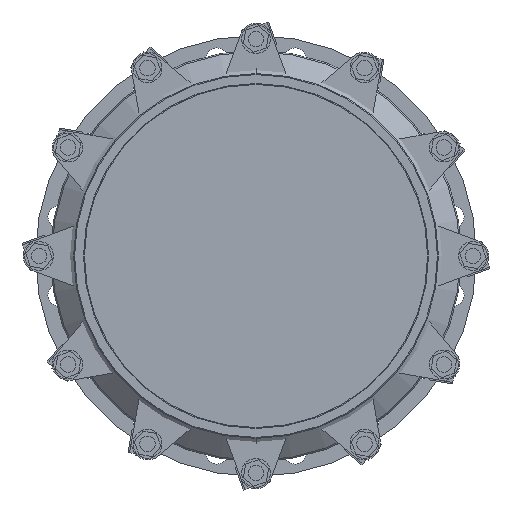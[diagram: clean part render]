
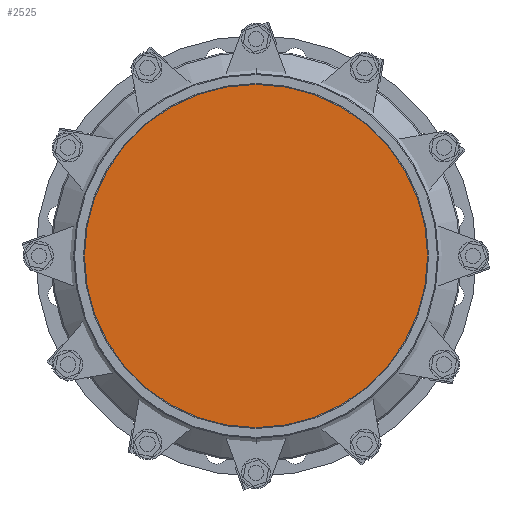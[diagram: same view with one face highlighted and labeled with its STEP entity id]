
A CAD part, left-side view. The second image highlights one B-rep face of the part: STEP entity #2525.
In plain terms, the highlighted planar face has unit normal (-1, 0, 0).
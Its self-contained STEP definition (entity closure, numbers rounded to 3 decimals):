
#2525=ADVANCED_FACE('',(#4949),#4950,.T.);
#4949=FACE_OUTER_BOUND('',#7655,.T.);
#4950=PLANE('',#7656);
#7655=EDGE_LOOP('',(#13088,#13089));
#7656=AXIS2_PLACEMENT_3D('',#13090,#13091,#13092);
#13088=ORIENTED_EDGE('',*,*,#17086,.T.);
#13089=ORIENTED_EDGE('',*,*,#17087,.T.);
#13090=CARTESIAN_POINT('',(-526.97,-310.693,326.12));
#13091=DIRECTION('',(-1.0,0.0,0.));
#13092=DIRECTION('',(0.,0.0,1.0));
#17086=EDGE_CURVE('',#20786,#20787,#20788,.T.);
#17087=EDGE_CURVE('',#20787,#20786,#20789,.T.);
#20786=VERTEX_POINT('',#25713);
#20787=VERTEX_POINT('',#25714);
#20788=CIRCLE('',#25715,232.5);
#20789=CIRCLE('',#25716,232.5);
#25713=CARTESIAN_POINT('',(-526.97,-310.693,93.62));
#25714=CARTESIAN_POINT('',(-526.97,-310.693,558.62));
#25715=AXIS2_PLACEMENT_3D('',#28667,#28668,#28669);
#25716=AXIS2_PLACEMENT_3D('',#28670,#28671,#28672);
#28667=CARTESIAN_POINT('',(-526.97,-310.693,326.12));
#28668=DIRECTION('',(-1.0,0.0,0.));
#28669=DIRECTION('',(0.,0.0,-1.0));
#28670=CARTESIAN_POINT('',(-526.97,-310.693,326.12));
#28671=DIRECTION('',(-1.0,0.0,0.));
#28672=DIRECTION('',(0.,0.0,-1.0));
